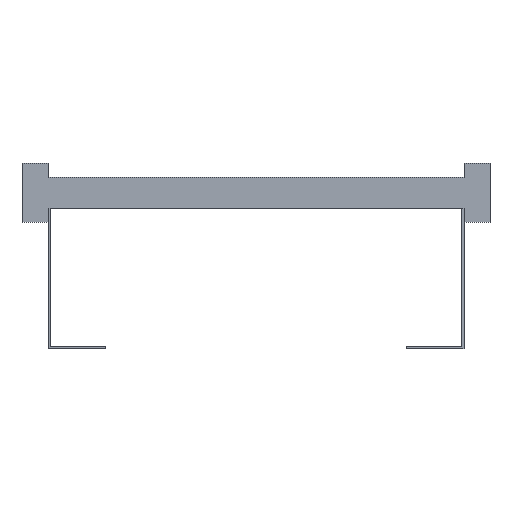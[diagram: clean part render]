
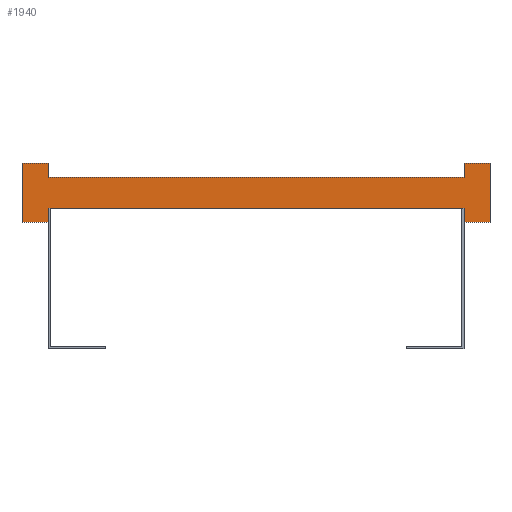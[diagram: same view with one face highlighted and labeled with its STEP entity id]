
A CAD part, front view. The second image highlights one B-rep face of the part: STEP entity #1940.
In plain terms, the highlighted planar face has unit normal (0, -1, 0).
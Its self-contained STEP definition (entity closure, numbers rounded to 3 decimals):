
#1=DIRECTION('',(0.,0.,1.));
#2=VECTOR('',#1,13.5);
#3=CARTESIAN_POINT('',(200.,0.,-28.5));
#4=LINE('',#3,#2);
#5=DIRECTION('',(0.,0.,-1.));
#6=VECTOR('',#5,13.5);
#7=CARTESIAN_POINT('',(-200.,0.,-15.));
#8=LINE('',#7,#6);
#9=DIRECTION('',(-1.,0.,0.));
#10=VECTOR('',#9,25.);
#11=CARTESIAN_POINT('',(-200.,0.,-28.5));
#12=LINE('',#11,#10);
#13=DIRECTION('',(0.,0.,1.));
#14=VECTOR('',#13,57.);
#15=CARTESIAN_POINT('',(-225.,0.,-28.5));
#16=LINE('',#15,#14);
#17=DIRECTION('',(1.,0.,0.));
#18=VECTOR('',#17,25.);
#19=CARTESIAN_POINT('',(-225.,0.,28.5));
#20=LINE('',#19,#18);
#21=DIRECTION('',(0.,0.,-1.));
#22=VECTOR('',#21,13.5);
#23=CARTESIAN_POINT('',(-200.,0.,28.5));
#24=LINE('',#23,#22);
#25=DIRECTION('',(0.,0.,1.));
#26=VECTOR('',#25,13.5);
#27=CARTESIAN_POINT('',(200.,0.,15.));
#28=LINE('',#27,#26);
#29=DIRECTION('',(1.,0.,0.));
#30=VECTOR('',#29,25.);
#31=CARTESIAN_POINT('',(200.,0.,28.5));
#32=LINE('',#31,#30);
#33=DIRECTION('',(0.,0.,-1.));
#34=VECTOR('',#33,57.);
#35=CARTESIAN_POINT('',(225.,0.,28.5));
#36=LINE('',#35,#34);
#37=DIRECTION('',(-1.,0.,0.));
#38=VECTOR('',#37,25.);
#39=CARTESIAN_POINT('',(225.,0.,-28.5));
#40=LINE('',#39,#38);
#1425=DIRECTION('',(1.,0.,0.));
#1426=VECTOR('',#1425,400.);
#1427=CARTESIAN_POINT('',(-200.,0.,-15.));
#1428=LINE('',#1427,#1426);
#1437=DIRECTION('',(1.,0.,0.));
#1438=VECTOR('',#1437,400.);
#1439=CARTESIAN_POINT('',(-200.,0.,15.));
#1440=LINE('',#1439,#1438);
#1441=CARTESIAN_POINT('',(-225.,0.,28.5));
#1442=CARTESIAN_POINT('',(-200.,0.,28.5));
#1443=VERTEX_POINT('',#1441);
#1444=VERTEX_POINT('',#1442);
#1445=CARTESIAN_POINT('',(-200.,0.,-28.5));
#1446=CARTESIAN_POINT('',(-225.,0.,-28.5));
#1447=VERTEX_POINT('',#1445);
#1448=VERTEX_POINT('',#1446);
#1449=CARTESIAN_POINT('',(225.,0.,28.5));
#1450=CARTESIAN_POINT('',(225.,0.,-28.5));
#1451=VERTEX_POINT('',#1449);
#1452=VERTEX_POINT('',#1450);
#1453=CARTESIAN_POINT('',(200.,0.,-28.5));
#1454=VERTEX_POINT('',#1453);
#1455=CARTESIAN_POINT('',(200.,0.,28.5));
#1456=VERTEX_POINT('',#1455);
#1473=CARTESIAN_POINT('',(-200.,0.,-15.));
#1475=VERTEX_POINT('',#1473);
#1477=CARTESIAN_POINT('',(-200.,0.,15.));
#1479=VERTEX_POINT('',#1477);
#1481=CARTESIAN_POINT('',(200.,0.,-15.));
#1483=VERTEX_POINT('',#1481);
#1485=CARTESIAN_POINT('',(200.,0.,15.));
#1487=VERTEX_POINT('',#1485);
#1909=CARTESIAN_POINT('',(0.,0.,0.));
#1910=DIRECTION('',(0.,1.,0.));
#1911=DIRECTION('',(1.,0.,0.));
#1912=AXIS2_PLACEMENT_3D('',#1909,#1910,#1911);
#1913=PLANE('',#1912);
#1915=ORIENTED_EDGE('',*,*,#1914,.T.);
#1917=ORIENTED_EDGE('',*,*,#1916,.F.);
#1919=ORIENTED_EDGE('',*,*,#1918,.T.);
#1921=ORIENTED_EDGE('',*,*,#1920,.T.);
#1923=ORIENTED_EDGE('',*,*,#1922,.T.);
#1925=ORIENTED_EDGE('',*,*,#1924,.T.);
#1927=ORIENTED_EDGE('',*,*,#1926,.T.);
#1929=ORIENTED_EDGE('',*,*,#1928,.T.);
#1931=ORIENTED_EDGE('',*,*,#1930,.T.);
#1933=ORIENTED_EDGE('',*,*,#1932,.T.);
#1935=ORIENTED_EDGE('',*,*,#1934,.T.);
#1937=ORIENTED_EDGE('',*,*,#1936,.T.);
#1938=EDGE_LOOP('',(#1915,#1917,#1919,#1921,#1923,#1925,#1927,#1929,#1931,#1933,
#1935,#1937));
#1939=FACE_OUTER_BOUND('',#1938,.F.);
#1940=ADVANCED_FACE('',(#1939),#1913,.F.);
#1914=EDGE_CURVE('',#1454,#1483,#4,.T.);
#1916=EDGE_CURVE('',#1475,#1483,#1428,.T.);
#1918=EDGE_CURVE('',#1475,#1447,#8,.T.);
#1920=EDGE_CURVE('',#1447,#1448,#12,.T.);
#1922=EDGE_CURVE('',#1448,#1443,#16,.T.);
#1924=EDGE_CURVE('',#1443,#1444,#20,.T.);
#1926=EDGE_CURVE('',#1444,#1479,#24,.T.);
#1928=EDGE_CURVE('',#1479,#1487,#1440,.T.);
#1930=EDGE_CURVE('',#1487,#1456,#28,.T.);
#1932=EDGE_CURVE('',#1456,#1451,#32,.T.);
#1934=EDGE_CURVE('',#1451,#1452,#36,.T.);
#1936=EDGE_CURVE('',#1452,#1454,#40,.T.);
